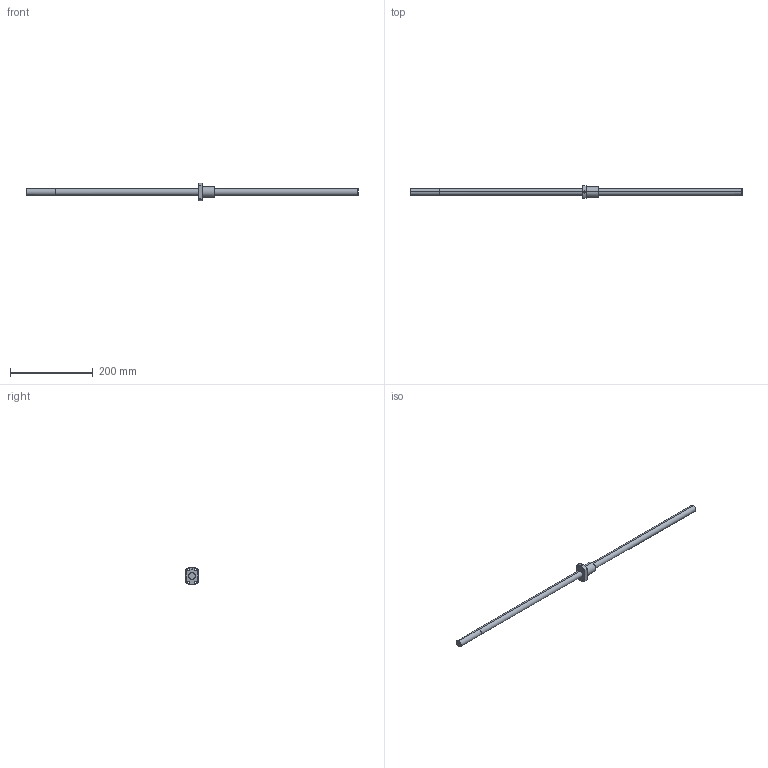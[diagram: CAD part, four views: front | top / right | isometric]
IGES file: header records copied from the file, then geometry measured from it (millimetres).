
Global section: file name: No Iges File Name specified; native system: AutoDesk Inventor R11.0; preprocessor: AutoDesk Inventor Iges Exporter R11.0; author: No Author specified; organization: No Organization specified; date: 20160202.105722; units: millimetre
Bounding box: 800 x 29 x 43 mm (x, y, z)
Surface area: 48691.5 mm2 (no closed solid volume)
Topology: 0 solids, 0 shells, 41 faces, 292 edges, 290 vertices
Faces by surface type: bspline 41
